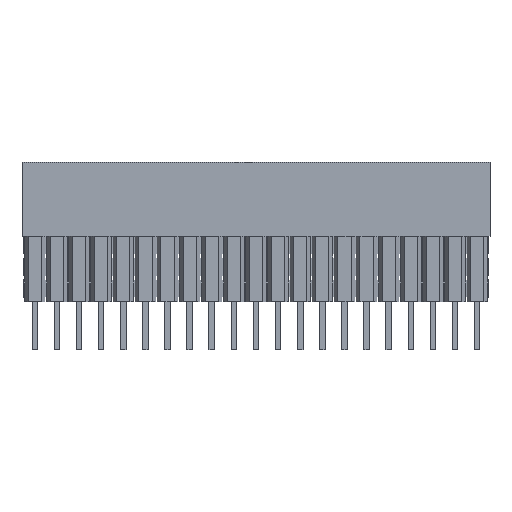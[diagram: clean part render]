
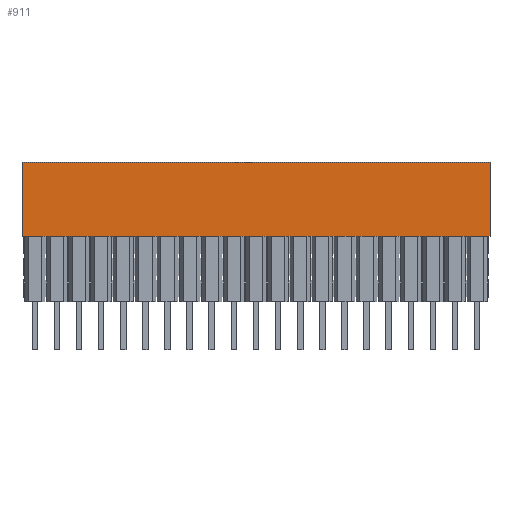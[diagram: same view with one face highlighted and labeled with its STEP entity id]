
A CAD part, top view. The second image highlights one B-rep face of the part: STEP entity #911.
In plain terms, the highlighted planar face has unit normal (0, 0, 1).
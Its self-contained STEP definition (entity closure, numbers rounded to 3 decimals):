
#911=ADVANCED_FACE('',(#2893),#1905,.T.);
#1905=PLANE('',#21852);
#2893=FACE_OUTER_BOUND('',#4011,.T.);
#4011=EDGE_LOOP('',(#8635,#8636,#8637,#8638));
#8635=ORIENTED_EDGE('',*,*,#14302,.T.);
#8636=ORIENTED_EDGE('',*,*,#14303,.F.);
#8637=ORIENTED_EDGE('',*,*,#14304,.T.);
#8638=ORIENTED_EDGE('',*,*,#14300,.T.);
#11643=VERTEX_POINT('',#31265);
#11644=VERTEX_POINT('',#31267);
#11645=VERTEX_POINT('',#31271);
#11646=VERTEX_POINT('',#31273);
#14300=EDGE_CURVE('',#11644,#11643,#17300,.T.);
#14302=EDGE_CURVE('',#11643,#11645,#17302,.T.);
#14303=EDGE_CURVE('',#11646,#11645,#17303,.T.);
#14304=EDGE_CURVE('',#11646,#11644,#17304,.T.);
#17300=LINE('',#31266,#20300);
#17302=LINE('',#31270,#20302);
#17303=LINE('',#31272,#20303);
#17304=LINE('',#31274,#20304);
#20300=VECTOR('',#25679,1.);
#20302=VECTOR('',#25683,1.);
#20303=VECTOR('',#25684,1.);
#20304=VECTOR('',#25685,1.);
#21852=AXIS2_PLACEMENT_3D('',#31275,#25686,#25687);
#25679=DIRECTION('',(1.,0.,0.));
#25683=DIRECTION('',(0.,1.,0.));
#25684=DIRECTION('',(1.,0.,0.));
#25685=DIRECTION('',(0.,-1.,0.));
#25686=DIRECTION('',(0.,0.,1.));
#25687=DIRECTION('',(-1.,0.,0.));
#31265=CARTESIAN_POINT('',(-4.68,0.,0.02));
#31266=CARTESIAN_POINT('',(-38.1,0.,0.02));
#31267=CARTESIAN_POINT('',(-58.42,0.,0.02));
#31270=CARTESIAN_POINT('',(-4.68,0.,0.02));
#31271=CARTESIAN_POINT('',(-4.68,8.5,0.02));
#31272=CARTESIAN_POINT('',(-38.1,8.5,0.02));
#31273=CARTESIAN_POINT('',(-58.42,8.5,0.02));
#31274=CARTESIAN_POINT('',(-58.42,0.,0.02));
#31275=CARTESIAN_POINT('',(-38.1,0.,0.02));
